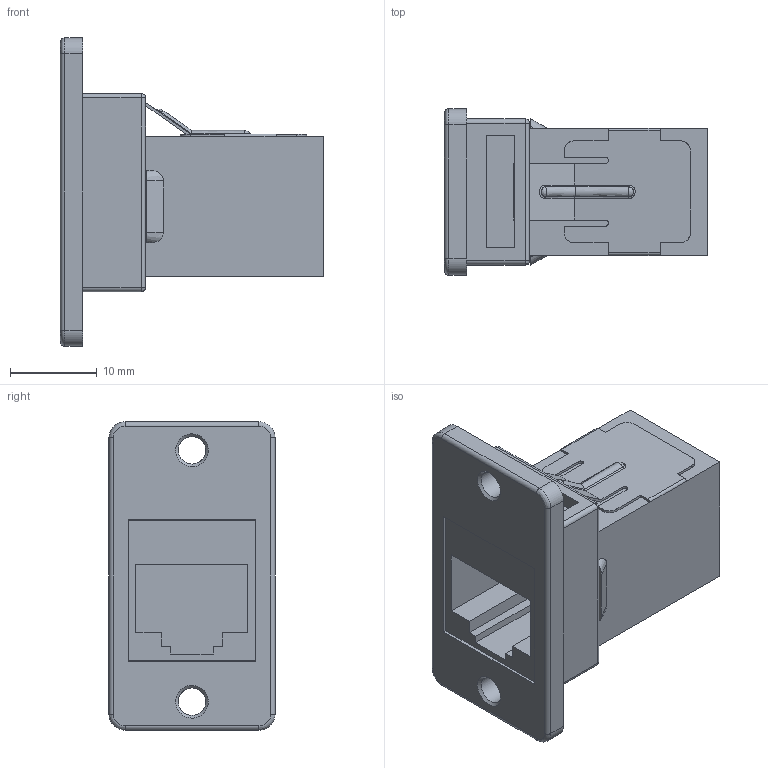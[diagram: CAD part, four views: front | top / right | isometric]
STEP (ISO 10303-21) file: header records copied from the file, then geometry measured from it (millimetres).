
FILE_DESCRIPTION(('FreeCAD Model'),'2;1');
FILE_NAME('Open CASCADE Shape Model','2026-05-21T11:23:27',(''),(''), 'Open CASCADE STEP processor 7.8','FreeCAD','Unknown');
FILE_SCHEMA(('AUTOMOTIVE_DESIGN { 1 0 10303 214 1 1 1 1 }'));
Length unit declared in the file: millimetre
Products named in the file (3): Unnamed; SY-FG01; 3013AJSLQF6WH
Assembly tree (2 placements, depth 2):
  Unnamed
    SY-FG01
    3013AJSLQF6WH
Bounding box: 30.3 x 19.12 x 35.5 mm (x, y, z)
Volume: 6367.3 mm3; surface area: 5721.6 mm2
Topology: 2 solids, 2 shells, 170 faces, 449 edges, 286 vertices
Faces by surface type: bspline 168, plane 2
Entity records: 9009 total; most frequent: CARTESIAN_POINT 6189, ORIENTED_EDGE 890, EDGE_CURVE 445, B_SPLINE_CURVE_WITH_KNOTS 445, VERTEX_POINT 286, FACE_BOUND 187, EDGE_LOOP 187, ADVANCED_FACE 170
